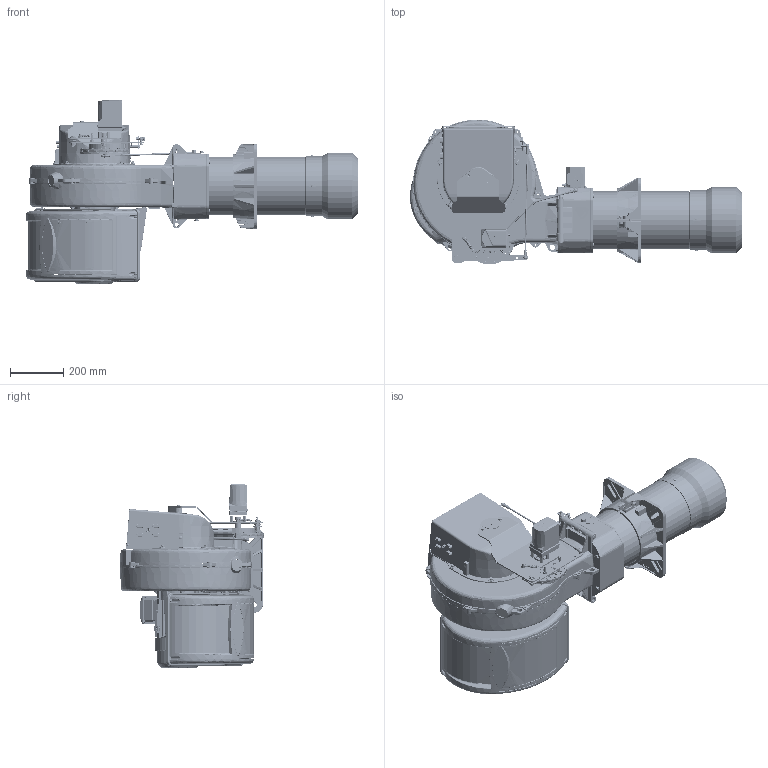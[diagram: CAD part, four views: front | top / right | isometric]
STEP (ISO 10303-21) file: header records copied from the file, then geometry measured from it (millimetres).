
FILE_DESCRIPTION (( 'STEP AP214' ), '1' );
FILE_NAME ('17750010-parte.STEP', '2019-02-07T09:41:55', ( '' ), ( '' ), 'SwSTEP 2.0', 'SolidWorks 2018', '' );
FILE_SCHEMA (( 'AUTOMOTIVE_DESIGN' ));
Length unit declared in the file: millimetre
Products named in the file (1): 17750010-parte
Bounding box: 1248.73 x 544.67 x 689 mm (x, y, z)
Surface area: 3798259.5 mm2 (no closed solid volume)
Topology: 0 solids, 462 shells, 4266 faces, 19285 edges, 14591 vertices
Faces by surface type: plane 1842, cylinder 1181, bspline 879, cone 248, torus 81, sphere 35
Full cylindrical faces by diameter (mm): 1 x1, 1.2 x1, 2.5 x1, 2.69 x1, 3.7 x5, 3.9 x2, 3.95 x1, 4 x1, 4.2 x1, 4.5 x4, 4.8 x2, 5 x14, 5.2 x1, 5.4 x1, 5.5 x2, 5.7 x1, 5.857 x2, 6 x10, 6.2 x1, 6.4 x1, 6.6 x6, 6.8 x2, 7 x12, 7.5 x2, 8 x30, 8.08 x3, 8.2 x1, 8.8 x1, 9 x3, 9.5 x9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
Entity records: 381440 total; most frequent: CARTESIAN_POINT 201508, ORIENTED_EDGE 25634, DIRECTION 21183, EDGE_CURVE 18613, VERTEX_POINT 14422, LINE 8111, VECTOR 8111, B_SPLINE_CURVE_WITH_KNOTS 7134
